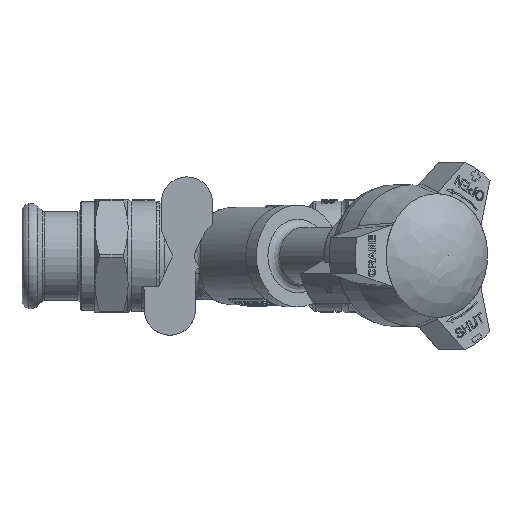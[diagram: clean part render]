
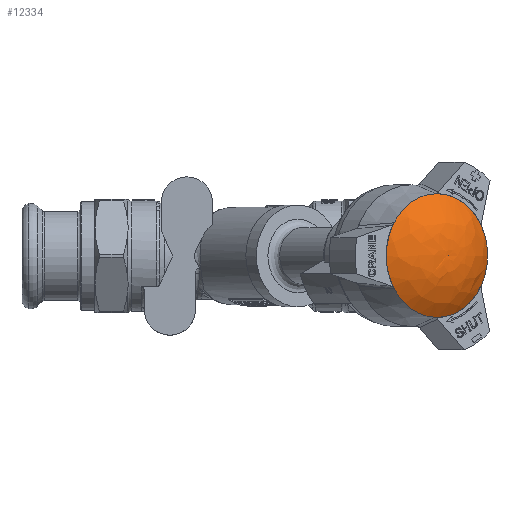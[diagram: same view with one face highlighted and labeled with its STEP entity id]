
A CAD part, top view. The second image highlights one B-rep face of the part: STEP entity #12334.
In plain terms, the highlighted free-form (B-spline) face has degree [2, 2] with [5, 9] control points.
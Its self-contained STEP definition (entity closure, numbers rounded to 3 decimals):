
#12245=CARTESIAN_POINT('',(20.981,21.883,107.019));
#12246=VERTEX_POINT('',#12245);
#12247=CARTESIAN_POINT('',(20.95,0.,107.04));
#12248=DIRECTION('',(0.574,0.,0.819));
#12249=DIRECTION('',(0.001,1.,-0.001));
#12250=AXIS2_PLACEMENT_3D('',#12247,#12248,#12249);
#12251=CIRCLE('',#12250,21.883);
#12252=EDGE_CURVE('',#12246,#12246,#12251,.T.);
#12278=CARTESIAN_POINT('',(35.832,-0.056,71.517));
#12279=CARTESIAN_POINT('',(42.108,-0.054,82.306));
#12280=CARTESIAN_POINT('',(38.907,-0.038,94.37));
#12281=CARTESIAN_POINT('',(35.707,-0.021,106.434));
#12282=CARTESIAN_POINT('',(24.908,0.,112.692));
#12283=CARTESIAN_POINT('',(35.787,-32.621,71.549));
#12284=CARTESIAN_POINT('',(42.064,-31.572,82.337));
#12285=CARTESIAN_POINT('',(38.877,-22.014,94.391));
#12286=CARTESIAN_POINT('',(35.689,-12.457,106.446));
#12287=CARTESIAN_POINT('',(24.908,0.,112.692));
#12288=CARTESIAN_POINT('',(9.111,-32.565,90.228));
#12289=CARTESIAN_POINT('',(16.246,-31.518,100.415));
#12290=CARTESIAN_POINT('',(20.874,-21.977,106.997));
#12291=CARTESIAN_POINT('',(25.503,-12.436,113.579));
#12292=CARTESIAN_POINT('',(24.908,0.,112.692));
#12293=CARTESIAN_POINT('',(-17.566,-32.51,108.907));
#12294=CARTESIAN_POINT('',(-9.573,-31.464,118.493));
#12295=CARTESIAN_POINT('',(2.872,-21.939,119.602));
#12296=CARTESIAN_POINT('',(15.316,-12.414,120.711));
#12297=CARTESIAN_POINT('',(24.908,0.,112.692));
#12298=CARTESIAN_POINT('',(-17.52,0.056,108.875));
#12299=CARTESIAN_POINT('',(-9.529,0.054,118.462));
#12300=CARTESIAN_POINT('',(2.903,0.038,119.581));
#12301=CARTESIAN_POINT('',(15.334,0.021,120.699));
#12302=CARTESIAN_POINT('',(24.908,0.,112.692));
#12303=CARTESIAN_POINT('',(-17.474,32.621,108.843));
#12304=CARTESIAN_POINT('',(-9.484,31.572,118.431));
#12305=CARTESIAN_POINT('',(2.933,22.014,119.559));
#12306=CARTESIAN_POINT('',(15.351,12.457,120.687));
#12307=CARTESIAN_POINT('',(24.908,0.,112.692));
#12308=CARTESIAN_POINT('',(9.202,32.565,90.164));
#12309=CARTESIAN_POINT('',(16.334,31.518,100.353));
#12310=CARTESIAN_POINT('',(20.936,21.977,106.954));
#12311=CARTESIAN_POINT('',(25.538,12.436,113.554));
#12312=CARTESIAN_POINT('',(24.908,0.,112.692));
#12313=CARTESIAN_POINT('',(35.878,32.51,71.486));
#12314=CARTESIAN_POINT('',(42.152,31.464,82.275));
#12315=CARTESIAN_POINT('',(38.938,21.939,94.348));
#12316=CARTESIAN_POINT('',(35.724,12.414,106.422));
#12317=CARTESIAN_POINT('',(24.908,0.,112.692));
#12318=CARTESIAN_POINT('',(35.832,-0.056,71.517));
#12319=CARTESIAN_POINT('',(42.108,-0.054,82.306));
#12320=CARTESIAN_POINT('',(38.907,-0.038,94.37));
#12321=CARTESIAN_POINT('',(35.707,-0.021,106.434));
#12322=CARTESIAN_POINT('',(24.908,0.,112.692));
#12330=(BOUNDED_SURFACE()B_SPLINE_SURFACE(2,2,((#12278,#12283,#12288,#12293,#12298,#12303,#12308,#12313,#12318),(#12279,#12284,#12289,#12294,#12299,#12304,#12309,#12314,#12319),(#12280,#12285,#12290,#12295,#12300,#12305,#12310,#12315,#12320),(#12281,#12286,#12291,#12296,#12301,#12306,#12311,#12316,#12321),(#12282,#12287,#12292,#12297,#12302,#12307,#12312,#12317,#12322)),.UNSPECIFIED.,.F.,.T.,.U.)B_SPLINE_SURFACE_WITH_KNOTS((3,2,3),(3,2,2,2,3),(0.084,0.87,1.656),(0.0,1.571,3.142,4.712,6.283),.UNSPECIFIED.)GEOMETRIC_REPRESENTATION_ITEM()RATIONAL_B_SPLINE_SURFACE(((1.0,0.707,1.0,0.707,1.0,0.707,1.0,0.707,1.0),(0.924,0.653,0.924,0.653,0.924,0.653,0.924,0.653,0.924),(1.0,0.707,1.0,0.707,1.0,0.707,1.0,0.707,1.0),(0.924,0.653,0.924,0.653,0.924,0.653,0.924,0.653,0.924),(1.0,0.707,1.0,0.707,1.0,0.707,1.0,0.707,1.0)))REPRESENTATION_ITEM('')SURFACE());
#12331=ORIENTED_EDGE('',*,*,#12252,.T.);
#12332=EDGE_LOOP('',(#12331));
#12333=FACE_OUTER_BOUND('',#12332,.T.);
#12334=ADVANCED_FACE('',(#12333),#12330,.T.);
